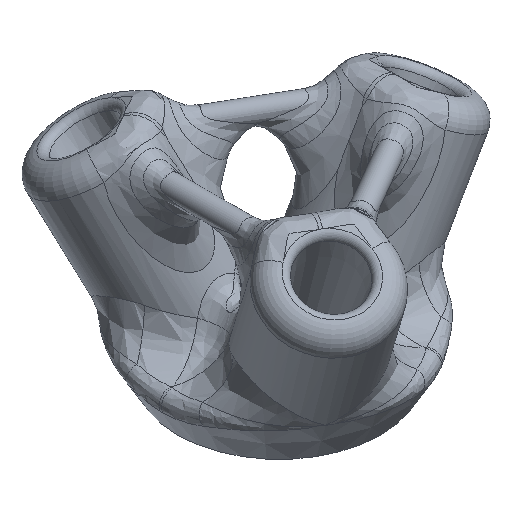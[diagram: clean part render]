
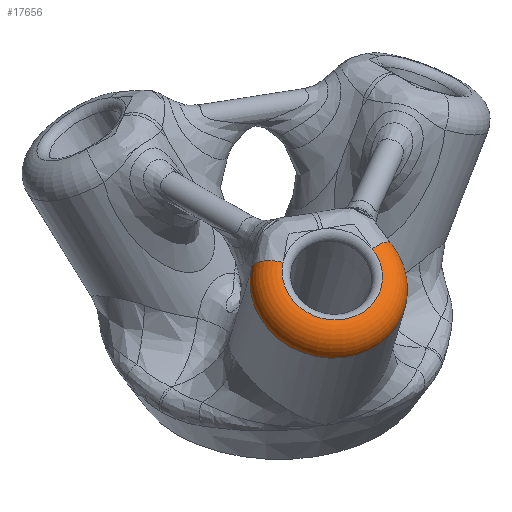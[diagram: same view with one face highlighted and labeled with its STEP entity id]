
A CAD part, isometric view. The second image highlights one B-rep face of the part: STEP entity #17656.
In plain terms, the highlighted toroidal (fillet/blend) face has major radius 8.827 mm and minor radius 5 mm.
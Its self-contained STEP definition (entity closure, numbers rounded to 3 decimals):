
#9225=VERTEX_POINT('',#9226);
#9226=CARTESIAN_POINT('',(-28.415,-46.572,42.096));
#9231=EDGE_CURVE('5:247879',#9225,#9232,#9234,.F.);
#9232=VERTEX_POINT('',#9233);
#9233=CARTESIAN_POINT('',(-25.018,-43.177,44.774));
#9234=CIRCLE('',#9235,13.827);
#9235=AXIS2_PLACEMENT_3D('',#9236,#9237,#9238);
#9236=CARTESIAN_POINT('',(-16.613,-53.774,41.902));
#9237=DIRECTION('',(-0.25,-0.433,0.866));
#9238=DIRECTION('',(-0.433,-0.75,-0.5));
#9520=VERTEX_POINT('',#9521);
#9521=CARTESIAN_POINT('',(-3.233,-55.754,44.774));
#9806=EDGE_CURVE('5:247879',#9520,#9225,#9234,.F.);
#11731=VERTEX_POINT('',#11732);
#11732=CARTESIAN_POINT('',(-23.232,-49.169,48.067));
#11743=EDGE_CURVE('5:269700',#11731,#11744,#11746,.T.);
#11744=VERTEX_POINT('',#11745);
#11745=CARTESIAN_POINT('',(-9.314,-57.204,48.067));
#11746=CIRCLE('',#11747,8.834);
#11747=AXIS2_PLACEMENT_3D('',#11748,#11749,#11750);
#11748=CARTESIAN_POINT('',(-17.863,-55.939,46.232));
#11749=DIRECTION('',(-0.25,-0.433,0.866));
#11750=DIRECTION('',(0.,0.894,0.447));
#16995=EDGE_CURVE('5:247858',#9232,#11731,#16996,.T.);
#16996=CIRCLE('',#16997,5.);
#16997=AXIS2_PLACEMENT_3D('',#16998,#16999,#17000);
#16998=CARTESIAN_POINT('',(-21.978,-47.009,43.735));
#16999=DIRECTION('',(0.754,0.474,0.455));
#17000=DIRECTION('',(-0.608,0.766,0.208));
#17656=ADVANCED_FACE('5:247090',(#17657),#17670,.T.);
#17657=FACE_BOUND('',#17658,.T.);
#17658=EDGE_LOOP('',(#17659,#17660,#17661,#17662,#17663));
#17659=ORIENTED_EDGE('',*,*,#11743,.F.);
#17660=ORIENTED_EDGE('',*,*,#16995,.F.);
#17661=ORIENTED_EDGE('',*,*,#9231,.F.);
#17662=ORIENTED_EDGE('',*,*,#9806,.F.);
#17663=ORIENTED_EDGE('',*,*,#17664,.T.);
#17664=EDGE_CURVE('5:247864',#9520,#11744,#17665,.T.);
#17665=CIRCLE('',#17666,5.);
#17666=AXIS2_PLACEMENT_3D('',#17667,#17668,#17669);
#17667=CARTESIAN_POINT('',(-8.071,-55.038,43.735));
#17668=DIRECTION('',(-0.034,-0.89,-0.455));
#17669=DIRECTION('',(0.968,-0.143,0.208));
#17670=TOROIDAL_SURFACE('',#17671,8.827,5.0);
#17671=AXIS2_PLACEMENT_3D('',#17672,#17673,#17674);
#17672=CARTESIAN_POINT('',(-16.613,-53.774,41.902));
#17673=DIRECTION('',(0.25,0.433,-0.866));
#17674=DIRECTION('',(0.,0.894,0.447));
